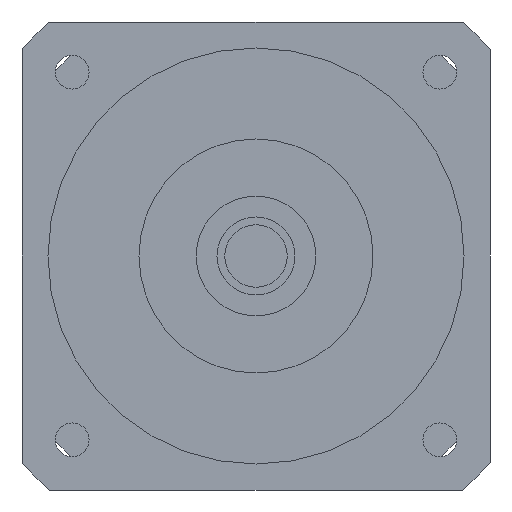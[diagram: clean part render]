
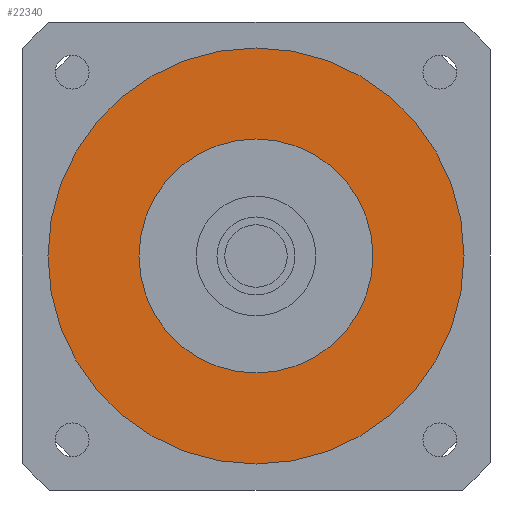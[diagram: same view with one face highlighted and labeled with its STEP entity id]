
A CAD part, left-side view. The second image highlights one B-rep face of the part: STEP entity #22340.
In plain terms, the highlighted planar face has unit normal (-1, 0, 0) as drawn and (0, 0, -1) by its records, which use the part's own axes.
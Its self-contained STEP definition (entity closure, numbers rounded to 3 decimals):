
#14250=CARTESIAN_POINT('',(0.,22.5,-54.));
#14260=VERTEX_POINT('',#14250);
#14310=CARTESIAN_POINT('',(0.,0.,-54.));
#14320=DIRECTION('',(0.,0.,1.));
#14330=DIRECTION('',(0.,1.,0.));
#14340=AXIS2_PLACEMENT_3D('',#14310,#14320,#14330);
#14350=CIRCLE('',#14340,22.5);
#14360=CARTESIAN_POINT('',(0.,-22.5,-54.));
#14370=VERTEX_POINT('',#14360);
#14380=EDGE_CURVE('',#14260,#14370,#14350,.T.);
#21900=CARTESIAN_POINT('',(0.,-40.,-54.));
#21910=VERTEX_POINT('',#21900);
#22000=CARTESIAN_POINT('',(0.,40.,-54.));
#22010=VERTEX_POINT('',#22000);
#22040=CARTESIAN_POINT('',(0.,0.,
-54.));
#22050=DIRECTION('',(0.,0.,1.));
#22060=DIRECTION('',(1.,0.,0.));
#22070=AXIS2_PLACEMENT_3D('',#22040,#22050,#22060);
#22080=CIRCLE('',#22070,40.);
#22090=CARTESIAN_POINT('',(40.,0.,-54.));
#22100=VERTEX_POINT('',#22090);
#22110=EDGE_CURVE('',#22100,#22010,#22080,.T.);
#22130=EDGE_CURVE('',#21910,#22100,#22080,.T.);
#22180=CARTESIAN_POINT('',(0.,0.,
-54.));
#22190=DIRECTION('',(0.,0.,1.));
#22200=DIRECTION('',(0.,1.,0.));
#22210=AXIS2_PLACEMENT_3D('',#22180,#22190,#22200);
#22220=PLANE('',#22210);
#22230=ORIENTED_EDGE('',*,*,#14380,.T.);
#22240=EDGE_CURVE('',#14370,#14260,#14350,.T.);
#22250=ORIENTED_EDGE('',*,*,#22240,.T.);
#22260=EDGE_LOOP('',(#22250,#22230));
#22270=FACE_BOUND('',#22260,.T.);
#22280=ORIENTED_EDGE('',*,*,#22110,.F.);
#22290=EDGE_CURVE('',#22010,#21910,#22080,.T.);
#22300=ORIENTED_EDGE('',*,*,#22290,.F.);
#22310=ORIENTED_EDGE('',*,*,#22130,.F.);
#22320=EDGE_LOOP('',(#22310,#22300,#22280));
#22330=FACE_OUTER_BOUND('',#22320,.T.);
#22340=ADVANCED_FACE('',(#22270,#22330),#22220,.F.);
